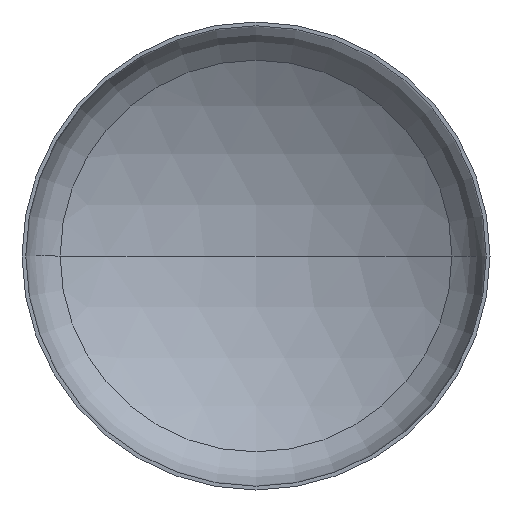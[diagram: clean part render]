
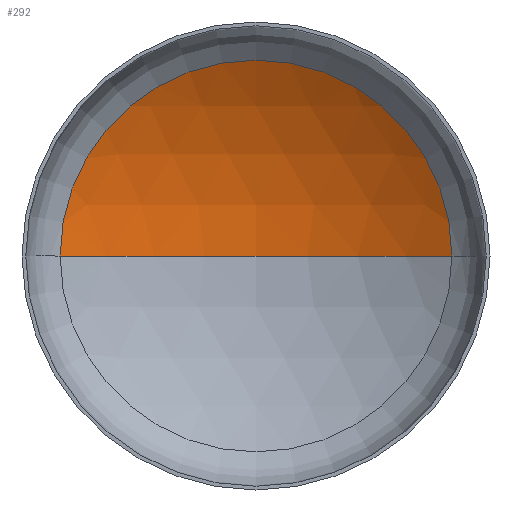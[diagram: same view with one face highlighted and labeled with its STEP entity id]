
A CAD part, front view. The second image highlights one B-rep face of the part: STEP entity #292.
In plain terms, the highlighted spherical face has radius 2880 mm.
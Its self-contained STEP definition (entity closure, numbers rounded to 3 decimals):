
#9 = CARTESIAN_POINT ( 'NONE',  ( 1506.271, 563.041, 0. ) ) ;
#13 = ORIENTED_EDGE ( 'NONE', *, *, #179, .T. ) ;
#18 = EDGE_LOOP ( 'NONE', ( #81, #28, #13 ) ) ;
#28 = ORIENTED_EDGE ( 'NONE', *, *, #186, .T. ) ;
#29 = AXIS2_PLACEMENT_3D ( 'NONE', #132, #160, #140 ) ;
#41 = DIRECTION ( 'NONE',  ( 1., 0., 0. ) ) ;
#43 = DIRECTION ( 'NONE',  ( 0., 0., 1. ) ) ;
#48 = AXIS2_PLACEMENT_3D ( 'NONE', #182, #43, #41 ) ;
#51 = AXIS2_PLACEMENT_3D ( 'NONE', #234, #232, #231 ) ;
#60 = AXIS2_PLACEMENT_3D ( 'NONE', #247, #246, #280 ) ;
#81 = ORIENTED_EDGE ( 'NONE', *, *, #200, .F. ) ;
#114 = VERTEX_POINT ( 'NONE', #340 ) ;
#132 = CARTESIAN_POINT ( 'NONE',  ( 0., -1891.658, 0. ) ) ;
#140 = DIRECTION ( 'NONE',  ( -1., 0., 0. ) ) ;
#142 = VERTEX_POINT ( 'NONE', #202 ) ;
#146 = FACE_OUTER_BOUND ( 'NONE', #18, .T. ) ;
#158 = VERTEX_POINT ( 'NONE', #9 ) ;
#160 = DIRECTION ( 'NONE',  ( 0., 0., -1. ) ) ;
#179 = EDGE_CURVE ( 'NONE', #158, #114, #407, .T. ) ;
#182 = CARTESIAN_POINT ( 'NONE',  ( 0., -1891.658, 0. ) ) ;
#186 = EDGE_CURVE ( 'NONE', #142, #158, #411, .T. ) ;
#200 = EDGE_CURVE ( 'NONE', #142, #114, #288, .T. ) ;
#202 = CARTESIAN_POINT ( 'NONE',  ( 0., 988.342, 0. ) ) ;
#231 = DIRECTION ( 'NONE',  ( -1., 0., 0. ) ) ;
#232 = DIRECTION ( 'NONE',  ( 0., 0., -1. ) ) ;
#234 = CARTESIAN_POINT ( 'NONE',  ( 0., -1891.658, 0. ) ) ;
#246 = DIRECTION ( 'NONE',  ( 0., -1., 0. ) ) ;
#247 = CARTESIAN_POINT ( 'NONE',  ( 0., 563.041, 0. ) ) ;
#280 = DIRECTION ( 'NONE',  ( 1., 0., 0. ) ) ;
#288 = CIRCLE ( 'NONE', #48, 2880. ) ;
#292 = ADVANCED_FACE ( 'NONE', ( #146 ), #338, .F. ) ;
#338 = SPHERICAL_SURFACE ( 'NONE', #29, 2880. ) ;
#340 = CARTESIAN_POINT ( 'NONE',  ( -1506.271, 563.041, 0. ) ) ;
#407 = CIRCLE ( 'NONE', #60, 1506.271 ) ;
#411 = CIRCLE ( 'NONE', #51, 2880. ) ;
